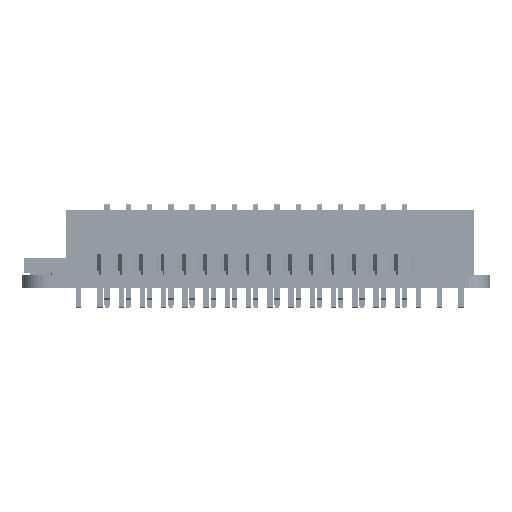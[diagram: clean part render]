
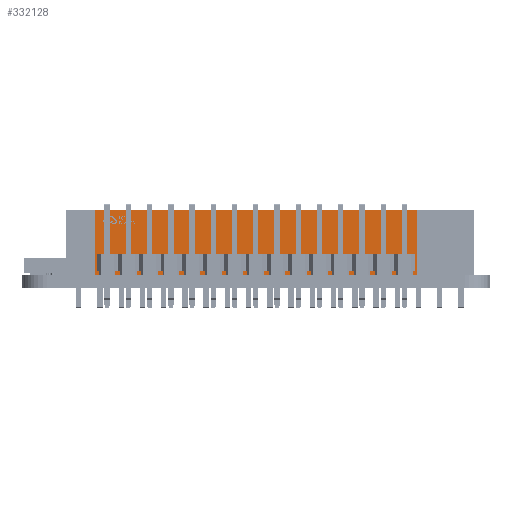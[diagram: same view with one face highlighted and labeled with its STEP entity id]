
A CAD part, left-side view. The second image highlights one B-rep face of the part: STEP entity #332128.
In plain terms, the highlighted planar face has unit normal (-1, 0, 0) as drawn and (0, -1, 0) by its records, which use the part's own axes.
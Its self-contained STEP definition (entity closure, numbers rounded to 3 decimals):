
#331414 = VERTEX_POINT('',#331415);
#331415 = CARTESIAN_POINT('',(-19.25,-1.25,
    7.7));
#331430 = VERTEX_POINT('',#331431);
#331431 = CARTESIAN_POINT('',(19.25,-1.25,
    7.7));
#331437 = EDGE_CURVE('',#331414,#331430,#331438,.T.);
#331438 = LINE('',#331439,#331440);
#331439 = CARTESIAN_POINT('',(-19.25,-1.25,
    7.7));
#331440 = VECTOR('',#331441,1.);
#331441 = DIRECTION('',(1.,0.,0.));
#331986 = EDGE_CURVE('',#331987,#331414,#331989,.T.);
#331987 = VERTEX_POINT('',#331988);
#331988 = CARTESIAN_POINT('',(-19.25,-1.25,
    -0.8));
#331989 = LINE('',#331990,#331991);
#331990 = CARTESIAN_POINT('',(-19.25,-1.25,
    -0.8));
#331991 = VECTOR('',#331992,1.);
#331992 = DIRECTION('',(0.,0.,1.));
#332041 = VERTEX_POINT('',#332042);
#332042 = CARTESIAN_POINT('',(19.25,-1.25,
    -0.8));
#332048 = EDGE_CURVE('',#332041,#331430,#332049,.T.);
#332049 = LINE('',#332050,#332051);
#332050 = CARTESIAN_POINT('',(19.25,-1.25,
    -0.8));
#332051 = VECTOR('',#332052,1.);
#332052 = DIRECTION('',(0.,0.,1.));
#332095 = EDGE_CURVE('',#331987,#332041,#332096,.T.);
#332096 = LINE('',#332097,#332098);
#332097 = CARTESIAN_POINT('',(-19.25,-1.25,
    -0.8));
#332098 = VECTOR('',#332099,1.);
#332099 = DIRECTION('',(1.,0.,0.));
#332128 = ADVANCED_FACE('',(#332129),#332135,.T.);
#332129 = FACE_BOUND('',#332130,.F.);
#332130 = EDGE_LOOP('',(#332131,#332132,#332133,#332134));
#332131 = ORIENTED_EDGE('',*,*,#332095,.F.);
#332132 = ORIENTED_EDGE('',*,*,#331986,.T.);
#332133 = ORIENTED_EDGE('',*,*,#331437,.T.);
#332134 = ORIENTED_EDGE('',*,*,#332048,.F.);
#332135 = PLANE('',#332136);
#332136 = AXIS2_PLACEMENT_3D('',#332137,#332138,#332139);
#332137 = CARTESIAN_POINT('',(-19.25,-1.25,
    -0.8));
#332138 = DIRECTION('',(0.,-1.,0.));
#332139 = DIRECTION('',(1.,0.,0.));
